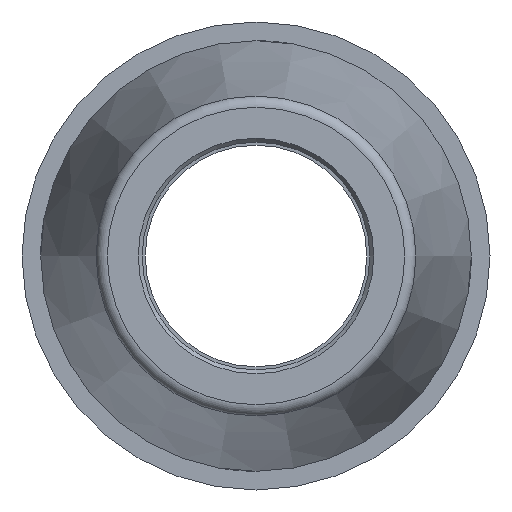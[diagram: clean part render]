
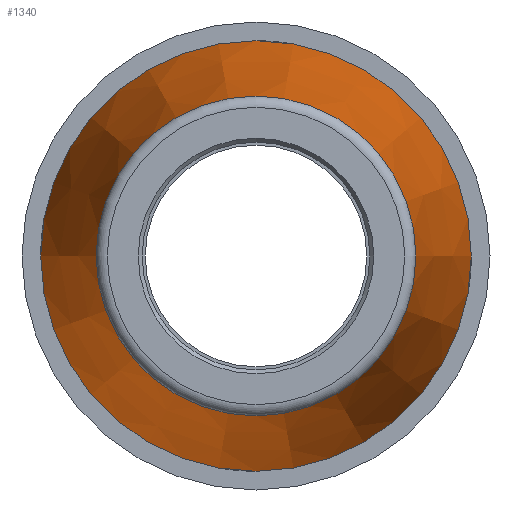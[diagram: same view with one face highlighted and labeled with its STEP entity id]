
A CAD part, left-side view. The second image highlights one B-rep face of the part: STEP entity #1340.
In plain terms, the highlighted conical face has half-angle 9.839 degrees and reference radius 35.52 mm.
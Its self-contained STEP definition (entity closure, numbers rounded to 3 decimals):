
#294=FACE_BOUND('',#418,.T.);
#324=FACE_OUTER_BOUND('',#417,.T.);
#417=EDGE_LOOP('',(#957));
#418=EDGE_LOOP('',(#958));
#527=CIRCLE('',#1436,30.409);
#528=CIRCLE('',#1438,40.94);
#623=VERTEX_POINT('',#2089);
#624=VERTEX_POINT('',#2092);
#759=EDGE_CURVE('',#623,#623,#527,.T.);
#760=EDGE_CURVE('',#624,#624,#528,.T.);
#957=ORIENTED_EDGE('',*,*,#760,.F.);
#958=ORIENTED_EDGE('',*,*,#759,.F.);
#1331=CONICAL_SURFACE('',#1437,35.52,9.839);
#1340=ADVANCED_FACE('',(#324,#294),#1331,.T.);
#1436=AXIS2_PLACEMENT_3D('',#2090,#1635,#1636);
#1437=AXIS2_PLACEMENT_3D('',#2091,#1637,#1638);
#1438=AXIS2_PLACEMENT_3D('',#2093,#1639,#1640);
#1635=DIRECTION('center_axis',(-1.,0.,0.));
#1636=DIRECTION('ref_axis',(0.,-1.,0.));
#1637=DIRECTION('center_axis',(1.,0.,0.));
#1638=DIRECTION('ref_axis',(0.,1.,0.));
#1639=DIRECTION('center_axis',(1.,0.,0.));
#1640=DIRECTION('ref_axis',(0.,0.,-1.));
#2089=CARTESIAN_POINT('',(-123.217,30.409,0.));
#2090=CARTESIAN_POINT('Origin',(-123.217,0.,0.));
#2091=CARTESIAN_POINT('Origin',(-93.75,0.,0.));
#2092=CARTESIAN_POINT('',(-62.5,40.94,0.));
#2093=CARTESIAN_POINT('Origin',(-62.5,0.,0.));
